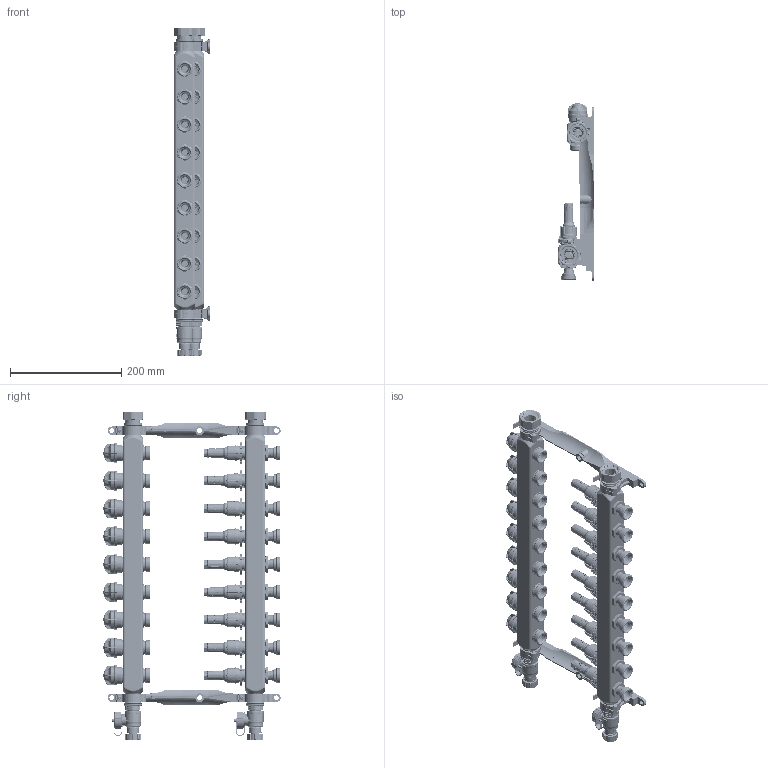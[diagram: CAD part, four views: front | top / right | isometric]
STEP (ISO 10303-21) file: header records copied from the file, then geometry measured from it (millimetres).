
FILE_DESCRIPTION (( 'STEP AP214' ), '1' );
FILE_NAME ('ProCalida_VA_1C_9obiegow.STEP', '2023-10-24T11:27:54', ( '' ), ( '' ), 'SwSTEP 2.0', 'SolidWorks 2022', '' );
FILE_SCHEMA (( 'AUTOMOTIVE_DESIGN' ));
Length unit declared in the file: millimetre
Products named in the file (47): bot; Lasche oben_2; Grundk_X_F6rper KFE-Hahn G3_4_05 01 000320_0; 05 01 000035_Verschlussschraube; Stellmutter M30x1,5 IG grau_05 01 000183; Einschraubst. G3_4xG1_2x40mm vern._05 02 000007; SCHRAUBKAPPE_05 01 000227; 05 01000235_Einschraubk_X_F6rper G1_2; LAGER_05 01 000501; Lasche unten_2; SCHEIBE_011 030.018; O-RING 21,82X3,53_801 000 0127; 05 01 000945_Geh_X_E4use KFE G3_4 ohne Logoaufn.; 05 01 000428_Handrad Caradesign schwarz DFM; LASCHE_2; O-Ring _X_F818x2 EPDM_801 000 0177_2; T_X_DCLLE-FLACH_011 030.016; DFM 0,5-4 l_min G1_2 KST EK_05 01 00 01; ProCalida_VA_1C_9obiegow; Anschluss-Flach 3_4 Ni_011 030.115; O-RING _X_F817x2,0 EPDM_801 000 0269; Verteiler oben_Baugruppe_2; 05 01 000037_Haltelasche f_X_FCr Endmodul_0; SCHRAUBKAPPE BEDRUCKT_05 01 000227; LASCHE; 801 018 3200_O-Ring _X_F818,0x3,0mm EPDM 70_X_B15 IRHD perox; mid; O-RING_801 000 0177; _X_DCberwurfmutter G1_05 00 350408; ISO 7049-ST3.5x25-C-H_Blechschrauben_0_3; korp_end; Hubvtl. M30x1,5AGxG1_2 KST VT gelb_05 01 01 60_0; 05 01 000033_Verschlussdeckel G3_4 mit Zapfen_0; Lagerring _X_F826x2,4 EPDM 50_05 01 000501; A; BEDRUCKUNG; ISO 7049-ST3.5x25-C-H_Blechschrauben_0_4; Wandhalter _X_F832_05 01 000265_2; Einstellring Verteiler, schwarz_05 01 000181; Anschlussnippel G1_2 - G3_4_Baugruppe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
Assembly tree (100 placements, depth 6):
  ProCalida_VA_1C_9obiegow
    korp_end  x4
    mid  x14
    LAGER_05 01 000501  x4
    Wandhalter _X_F832_05 01 000265_2  x2
      Lasche oben_2
        Lasche oben_2
        ISO 7049-ST3.5x25-C-H_Blechschrauben_0_3
      Lasche unten_2
        Lasche unten_2
        ISO 7049-ST3.5x25-C-H_Blechschrauben_0_4
      Wandhalter K_X_F6rper _X_F832_05 01 000265_2
    Anschluss-Flach 3_4 Ni_011 030.115  x2
      T_X_DCLLE-FLACH_011 030.016
      SCHEIBE_011 030.018
      O-RING 21,82X3,53_801 000 0127
      _X_DCberwurfmutter G1_05 00 350408
    DFM 0,5-4 l_min G1_2 KST EK_05 01 00 01  x9
      Bewegung_Baugruppe_2
        SCHRAUBKAPPE BEDRUCKT_05 01 000227
          BEDRUCKUNG
          SCHRAUBKAPPE_05 01 000227
      O-RING_801 000 0177
      Einstellring Verteiler, schwarz_05 01 000181
      05 01 000428_Handrad Caradesign schwarz DFM
      05 01000235_Einschraubk_X_F6rper G1_2
    Verteiler oben_Baugruppe_2  x2
      Lagerring _X_F826x2,4 EPDM 50_05 01 000501
      05 01 02 16_KFE-Hahn G3_4 Kunststoff o. Logoaufnahme_0
        05 02 00 43_Verschlussdeckel G3_4 mit Lasche
          05 01 000037_Haltelasche f_X_FCr Endmodul_0
            LASCHE
            LASCHE_2
            A
          05 01 000033_Verschlussdeckel G3_4 mit Zapfen_0
          801 018 3200_O-Ring _X_F818,0x3,0mm EPDM 70_X_B15 IRHD perox
        05 01 000035_Verschlussschraube
        Grundk_X_F6rper KFE-Hahn G3_4_05 01 000320_0
        05 01 000945_Geh_X_E4use KFE G3_4 ohne Logoaufn.
    Hubvtl. M30x1,5AGxG1_2 KST VT gelb_05 01 01 60_0  x9
      Stellmutter M30x1,5 IG grau_05 01 000183
      O-RING _X_F817x2,0 EPDM_801 000 0269
      Ventilk_X_F6rper M30x1,5 G1_2 AG Kst._05 01 000900
    bot  x9
    Anschlussnippel G1_2 - G3_4_Baugruppe  x9
      Einschraubst. G3_4xG1_2x40mm vern._05 02 000007
      O-Ring _X_F818x2 EPDM_801 000 0177_2
Bounding box: 65.98 x 318.7 x 591.22 mm (x, y, z)
Volume: 811631 mm3; surface area: 820186.6 mm2
Topology: 742 solids, 751 shells, 23655 faces, 61842 edges, 39896 vertices
Faces by surface type: plane 10396, cylinder 6010, cone 4332, bspline 2827, torus 90
Entity records: 210668 total; most frequent: CARTESIAN_POINT 81324, ORIENTED_EDGE 20484, DIRECTION 17874, EDGE_CURVE 10242, AXIS2_PLACEMENT_3D 6922, VERTEX_POINT 6632, EDGE_LOOP 4100, VECTOR 4030
